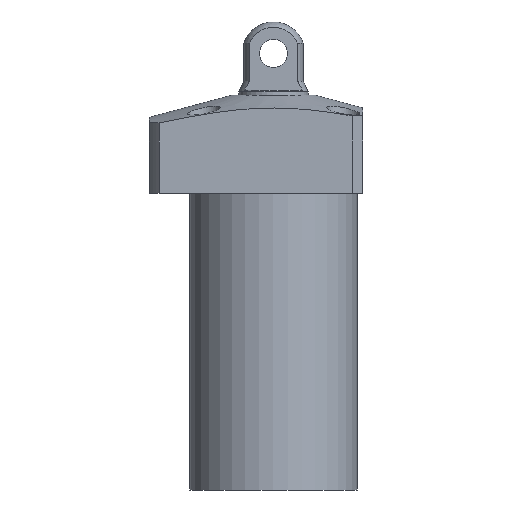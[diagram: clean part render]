
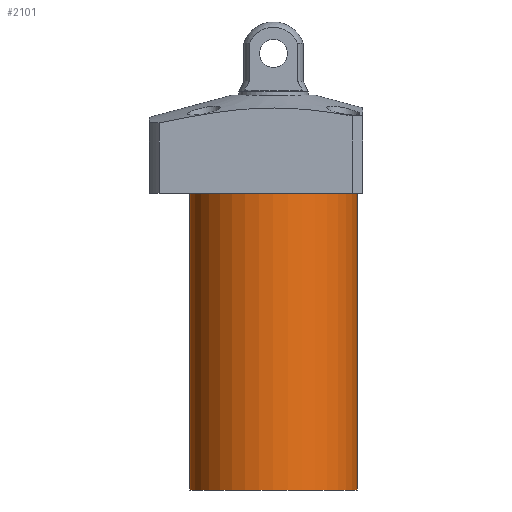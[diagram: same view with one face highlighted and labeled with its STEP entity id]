
A CAD part, front view. The second image highlights one B-rep face of the part: STEP entity #2101.
In plain terms, the highlighted cylindrical face has radius 24 mm (diameter 48 mm), a partial arc.
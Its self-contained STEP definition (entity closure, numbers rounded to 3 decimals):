
#16 = AXIS2_PLACEMENT_3D ( 'NONE', #1538, #91, #1714 ) ;
#78 = LINE ( 'NONE', #368, #1243 ) ;
#91 = DIRECTION ( 'NONE',  ( 0., 0., 1. ) ) ;
#128 = ORIENTED_EDGE ( 'NONE', *, *, #2280, .T. ) ;
#131 = ORIENTED_EDGE ( 'NONE', *, *, #2048, .F. ) ;
#295 = ORIENTED_EDGE ( 'NONE', *, *, #897, .F. ) ;
#302 = CARTESIAN_POINT ( 'NONE',  ( 24., 0., -14. ) ) ;
#311 = CYLINDRICAL_SURFACE ( 'NONE', #16, 24. ) ;
#368 = CARTESIAN_POINT ( 'NONE',  ( -24., 0., -99. ) ) ;
#370 = CARTESIAN_POINT ( 'NONE',  ( -24., 0., -14. ) ) ;
#419 = CARTESIAN_POINT ( 'NONE',  ( 24., 0., -99. ) ) ;
#469 = AXIS2_PLACEMENT_3D ( 'NONE', #1483, #1643, #1075 ) ;
#559 = CARTESIAN_POINT ( 'NONE',  ( 24., 0., -99. ) ) ;
#578 = LINE ( 'NONE', #419, #1258 ) ;
#617 = CARTESIAN_POINT ( 'NONE',  ( 0., 0., -14. ) ) ;
#763 = CARTESIAN_POINT ( 'NONE',  ( -24., 0., -99. ) ) ;
#879 = AXIS2_PLACEMENT_3D ( 'NONE', #617, #1160, #2243 ) ;
#897 = EDGE_CURVE ( 'NONE', #935, #1044, #1326, .T. ) ;
#935 = VERTEX_POINT ( 'NONE', #559 ) ;
#1044 = VERTEX_POINT ( 'NONE', #763 ) ;
#1075 = DIRECTION ( 'NONE',  ( -1., 0., 0. ) ) ;
#1131 = EDGE_LOOP ( 'NONE', ( #131, #295, #1984, #128 ) ) ;
#1160 = DIRECTION ( 'NONE',  ( 0., 0., -1. ) ) ;
#1243 = VECTOR ( 'NONE', #2189, 1000. ) ;
#1258 = VECTOR ( 'NONE', #1523, 1000. ) ;
#1326 = CIRCLE ( 'NONE', #469, 24. ) ;
#1483 = CARTESIAN_POINT ( 'NONE',  ( 0., 0., -99. ) ) ;
#1523 = DIRECTION ( 'NONE',  ( 0., 0., 1. ) ) ;
#1538 = CARTESIAN_POINT ( 'NONE',  ( 0., 0., -99. ) ) ;
#1643 = DIRECTION ( 'NONE',  ( 0., 0., -1. ) ) ;
#1714 = DIRECTION ( 'NONE',  ( 1., 0., 0. ) ) ;
#1765 = FACE_OUTER_BOUND ( 'NONE', #1131, .T. ) ;
#1817 = VERTEX_POINT ( 'NONE', #302 ) ;
#1984 = ORIENTED_EDGE ( 'NONE', *, *, #2291, .T. ) ;
#2034 = CIRCLE ( 'NONE', #879, 24. ) ;
#2048 = EDGE_CURVE ( 'NONE', #1044, #2360, #78, .T. ) ;
#2101 = ADVANCED_FACE ( 'NONE', ( #1765 ), #311, .T. ) ;
#2189 = DIRECTION ( 'NONE',  ( 0., 0., 1. ) ) ;
#2243 = DIRECTION ( 'NONE',  ( 1., 0., 0. ) ) ;
#2280 = EDGE_CURVE ( 'NONE', #1817, #2360, #2034, .T. ) ;
#2291 = EDGE_CURVE ( 'NONE', #935, #1817, #578, .T. ) ;
#2360 = VERTEX_POINT ( 'NONE', #370 ) ;
